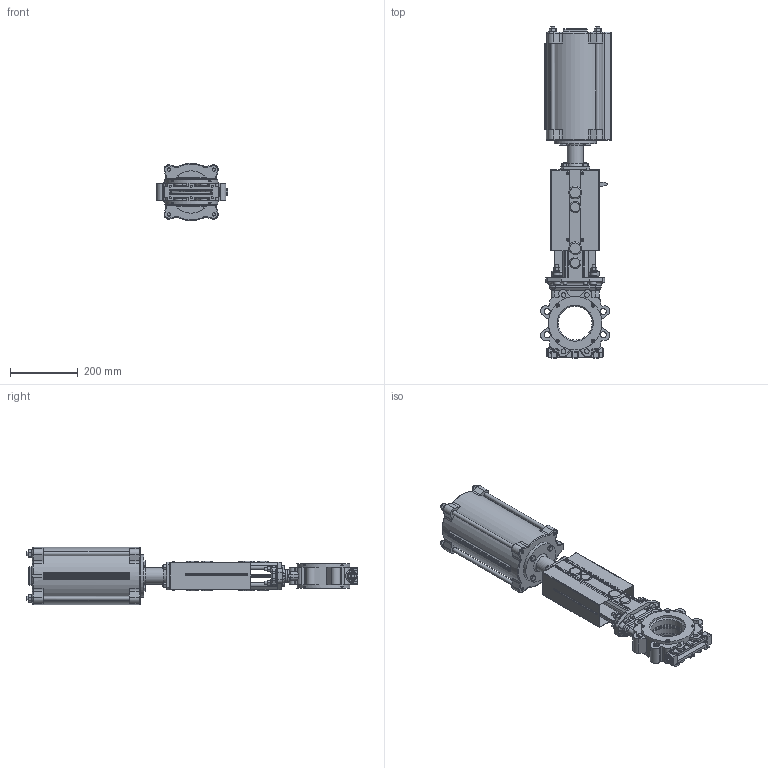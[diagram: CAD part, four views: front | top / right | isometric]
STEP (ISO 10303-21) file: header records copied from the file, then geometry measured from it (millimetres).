
FILE_DESCRIPTION(/* description */ (''),/* implementation_level */ '2;1');
FILE_NAME(/* name */ 'F:\Emir\3D-block special\SLV\SLV-DN100-PN10-FRSC160-165-LDR_Shrinkwrap_1.stp',/* time_stamp */ '2018-10-09T15:10:17+02:00',/* author */ ('emimus'),/* organization */ (''),/* preprocessor_version */ 'ST-DEVELOPER v17.2',/* originating_system */ 'Autodesk Inventor 2019',/* authorisation */ '');
FILE_SCHEMA (('CONFIG_CONTROL_DESIGN'));
Products named in the file (1): SLV-DN100-PN10-FRSC160-165-LDR_Shrinkwrap_1
Bounding box: 210.25 x 982.5 x 170 mm (x, y, z)
Volume: 4858388.3 mm3; surface area: 1463701.9 mm2
Topology: 2 solids, 2 shells, 2552 faces, 6666 edges, 4195 vertices
Faces by surface type: plane 1032, cylinder 666, cone 276, bspline 265, torus 229, sphere 84
Full cylindrical faces by diameter (mm): 4 x6, 4.134 x4, 4.2 x16, 4.5 x4, 6 x1, 6.4 x1, 6.75 x6, 7 x1, 8 x2, 8.376 x2, 8.5 x8, 8.88 x1, 9 x2, 9.5 x4, 10 x43, 10.5 x8, 11 x8, 11.445 x2, 12 x13, 13 x7, 14 x8, 14.63 x4, 15 x4, 16 x2, 17.7 x1, 18 x4, 19 x4, 20 x12, 20.5 x1, 20.95 x2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
Entity records: 101018 total; most frequent: CARTESIAN_POINT 39284, ORIENTED_EDGE 13186, DIRECTION 13079, EDGE_CURVE 6593, AXIS2_PLACEMENT_3D 5360, VERTEX_POINT 4195, EDGE_LOOP 2830, CIRCLE 2789
